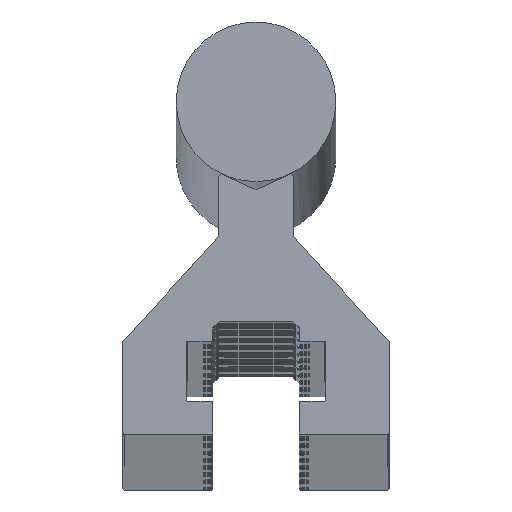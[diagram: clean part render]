
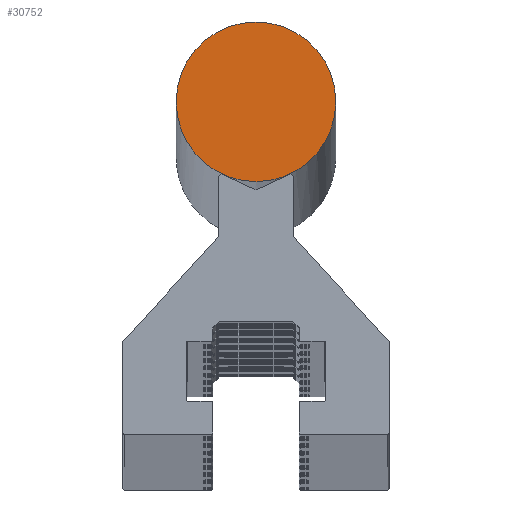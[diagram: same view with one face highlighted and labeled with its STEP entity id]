
A CAD part, top view. The second image highlights one B-rep face of the part: STEP entity #30752.
In plain terms, the highlighted planar face has unit normal (0, 0, 1).
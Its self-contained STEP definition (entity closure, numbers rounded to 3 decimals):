
#2587 = CIRCLE ( 'NONE', #21023, 6. ) ;
#9390 = ORIENTED_EDGE ( 'NONE', *, *, #42145, .T. ) ;
#11730 = PLANE ( 'NONE',  #22947 ) ;
#12602 = VERTEX_POINT ( 'NONE', #18605 ) ;
#13344 = EDGE_LOOP ( 'NONE', ( #9390 ) ) ;
#16513 = DIRECTION ( 'NONE',  ( 0., 0., 1. ) ) ;
#18605 = CARTESIAN_POINT ( 'NONE',  ( 6., 25., 1. ) ) ;
#20271 = DIRECTION ( 'NONE',  ( 1., 0., 0. ) ) ;
#21023 = AXIS2_PLACEMENT_3D ( 'NONE', #41169, #16513, #44922 ) ;
#22947 = AXIS2_PLACEMENT_3D ( 'NONE', #40738, #44504, #20271 ) ;
#30752 = ADVANCED_FACE ( 'NONE', ( #30928 ), #11730, .T. ) ;
#30928 = FACE_OUTER_BOUND ( 'NONE', #13344, .T. ) ;
#40738 = CARTESIAN_POINT ( 'NONE',  ( 0., 25., 1. ) ) ;
#41169 = CARTESIAN_POINT ( 'NONE',  ( 0., 25., 1. ) ) ;
#42145 = EDGE_CURVE ( 'NONE', #12602, #12602, #2587, .T. ) ;
#44504 = DIRECTION ( 'NONE',  ( 0., 0., 1. ) ) ;
#44922 = DIRECTION ( 'NONE',  ( 1., 0., 0. ) ) ;
